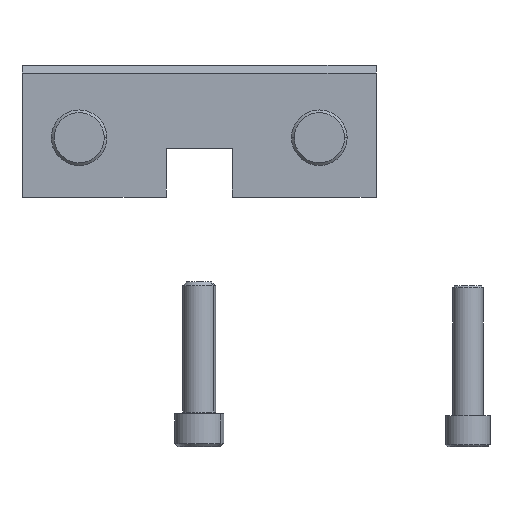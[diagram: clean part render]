
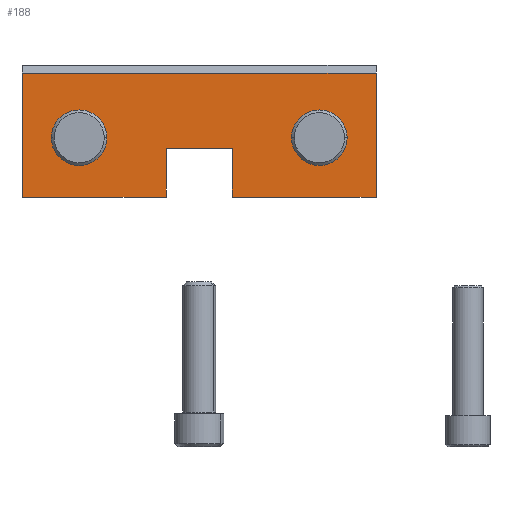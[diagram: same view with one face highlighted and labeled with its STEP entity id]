
A CAD part, front view. The second image highlights one B-rep face of the part: STEP entity #188.
In plain terms, the highlighted planar face has unit normal (0, -1, 0).
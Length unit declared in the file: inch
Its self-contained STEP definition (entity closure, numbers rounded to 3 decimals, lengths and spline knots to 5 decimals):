
#33 = ORIENTED_EDGE ( 'NONE', *, *, #2115, .T. ) ;
#54 = VERTEX_POINT ( 'NONE', #2180 ) ;
#61 = VECTOR ( 'NONE', #1964, 39.37008 ) ;
#81 = CARTESIAN_POINT ( 'NONE',  ( 1.34, 0., -0.5 ) ) ;
#82 = DIRECTION ( 'NONE',  ( 0., 0., 1. ) ) ;
#88 = DIRECTION ( 'NONE',  ( 0., 0., -1. ) ) ;
#110 = AXIS2_PLACEMENT_3D ( 'NONE', #1415, #2250, #1198 ) ;
#150 = AXIS2_PLACEMENT_3D ( 'NONE', #2074, #175, #1017 ) ;
#175 = DIRECTION ( 'NONE',  ( 0., 1., 0. ) ) ;
#188 = ADVANCED_FACE ( 'NONE', ( #1811, #1598, #526 ), #1352, .T. ) ;
#190 = ORIENTED_EDGE ( 'NONE', *, *, #922, .T. ) ;
#228 = VECTOR ( 'NONE', #1560, 39.37008 ) ;
#253 = CARTESIAN_POINT ( 'NONE',  ( -0.25, 0., -0.13 ) ) ;
#255 = CARTESIAN_POINT ( 'NONE',  ( 1.34, 0., 0.5 ) ) ;
#266 = LINE ( 'NONE', #1989, #2679 ) ;
#267 = EDGE_LOOP ( 'NONE', ( #190, #2014 ) ) ;
#306 = DIRECTION ( 'NONE',  ( 0., -1., 0. ) ) ;
#388 = CARTESIAN_POINT ( 'NONE',  ( 0.25, 0., -0.13 ) ) ;
#398 = CARTESIAN_POINT ( 'NONE',  ( -1.34, 0., -0.5 ) ) ;
#432 = EDGE_CURVE ( 'NONE', #2087, #54, #1242, .T. ) ;
#473 = CARTESIAN_POINT ( 'NONE',  ( -1.34, 0., -0.5 ) ) ;
#483 = ORIENTED_EDGE ( 'NONE', *, *, #2274, .F. ) ;
#490 = VERTEX_POINT ( 'NONE', #2132 ) ;
#526 = FACE_OUTER_BOUND ( 'NONE', #1681, .T. ) ;
#542 = LINE ( 'NONE', #253, #1695 ) ;
#554 = EDGE_CURVE ( 'NONE', #2379, #873, #1597, .T. ) ;
#585 = ORIENTED_EDGE ( 'NONE', *, *, #1091, .F. ) ;
#637 = DIRECTION ( 'NONE',  ( 0., 1., 0. ) ) ;
#649 = DIRECTION ( 'NONE',  ( 0., 0., 1. ) ) ;
#654 = CARTESIAN_POINT ( 'NONE',  ( 0.91, 0., -0.05 ) ) ;
#655 = LINE ( 'NONE', #2715, #1344 ) ;
#686 = DIRECTION ( 'NONE',  ( 0., 1., 0. ) ) ;
#696 = DIRECTION ( 'NONE',  ( 1., 0., 0. ) ) ;
#838 = CARTESIAN_POINT ( 'NONE',  ( -0.91, 0., -0.05 ) ) ;
#845 = DIRECTION ( 'NONE',  ( 0., 0., 1. ) ) ;
#873 = VERTEX_POINT ( 'NONE', #1501 ) ;
#876 = CARTESIAN_POINT ( 'NONE',  ( -0.91, 0., 0.16095 ) ) ;
#906 = ORIENTED_EDGE ( 'NONE', *, *, #432, .T. ) ;
#922 = EDGE_CURVE ( 'NONE', #2325, #1045, #1243, .T. ) ;
#950 = EDGE_CURVE ( 'NONE', #490, #2567, #1983, .T. ) ;
#985 = EDGE_CURVE ( 'NONE', #490, #2660, #1306, .T. ) ;
#1000 = DIRECTION ( 'NONE',  ( -1., 0., 0. ) ) ;
#1017 = DIRECTION ( 'NONE',  ( 0., 0., 1. ) ) ;
#1042 = LINE ( 'NONE', #398, #1977 ) ;
#1045 = VERTEX_POINT ( 'NONE', #1727 ) ;
#1069 = ORIENTED_EDGE ( 'NONE', *, *, #2652, .T. ) ;
#1070 = AXIS2_PLACEMENT_3D ( 'NONE', #654, #686, #82 ) ;
#1091 = EDGE_CURVE ( 'NONE', #2567, #1393, #2644, .T. ) ;
#1098 = CARTESIAN_POINT ( 'NONE',  ( -1.34, 0., 0.44 ) ) ;
#1198 = DIRECTION ( 'NONE',  ( 0., 0., 1. ) ) ;
#1240 = ORIENTED_EDGE ( 'NONE', *, *, #950, .F. ) ;
#1242 = LINE ( 'NONE', #1875, #2297 ) ;
#1243 = CIRCLE ( 'NONE', #1070, 0.21095 ) ;
#1287 = EDGE_CURVE ( 'NONE', #1830, #2660, #655, .T. ) ;
#1306 = LINE ( 'NONE', #1098, #228 ) ;
#1334 = ORIENTED_EDGE ( 'NONE', *, *, #1406, .T. ) ;
#1344 = VECTOR ( 'NONE', #845, 39.37008 ) ;
#1352 = PLANE ( 'NONE',  #2361 ) ;
#1393 = VERTEX_POINT ( 'NONE', #2246 ) ;
#1406 = EDGE_CURVE ( 'NONE', #54, #1817, #542, .T. ) ;
#1415 = CARTESIAN_POINT ( 'NONE',  ( -0.91, 0., -0.05 ) ) ;
#1428 = CARTESIAN_POINT ( 'NONE',  ( -1.34, 0., -0.5 ) ) ;
#1431 = DIRECTION ( 'NONE',  ( -1., 0., 0. ) ) ;
#1501 = CARTESIAN_POINT ( 'NONE',  ( -0.91, 0., -0.26095 ) ) ;
#1560 = DIRECTION ( 'NONE',  ( -1., 0., 0. ) ) ;
#1597 = CIRCLE ( 'NONE', #1787, 0.21095 ) ;
#1598 = FACE_BOUND ( 'NONE', #267, .T. ) ;
#1610 = DIRECTION ( 'NONE',  ( 0., 0., -1. ) ) ;
#1681 = EDGE_LOOP ( 'NONE', ( #1240, #2577, #2154, #483, #906, #1334, #1069, #585 ) ) ;
#1695 = VECTOR ( 'NONE', #696, 39.37008 ) ;
#1727 = CARTESIAN_POINT ( 'NONE',  ( 0.91, 0., -0.26095 ) ) ;
#1734 = CARTESIAN_POINT ( 'NONE',  ( -1.34, 0., 0.44 ) ) ;
#1760 = ORIENTED_EDGE ( 'NONE', *, *, #554, .T. ) ;
#1787 = AXIS2_PLACEMENT_3D ( 'NONE', #838, #637, #649 ) ;
#1811 = FACE_BOUND ( 'NONE', #2381, .T. ) ;
#1817 = VERTEX_POINT ( 'NONE', #388 ) ;
#1823 = EDGE_CURVE ( 'NONE', #1045, #2325, #2092, .T. ) ;
#1830 = VERTEX_POINT ( 'NONE', #473 ) ;
#1875 = CARTESIAN_POINT ( 'NONE',  ( -0.25, 0., -0.5 ) ) ;
#1964 = DIRECTION ( 'NONE',  ( 0., 0., -1. ) ) ;
#1976 = CARTESIAN_POINT ( 'NONE',  ( 1.34, 0., -0.5 ) ) ;
#1977 = VECTOR ( 'NONE', #1431, 39.37008 ) ;
#1983 = LINE ( 'NONE', #255, #61 ) ;
#1989 = CARTESIAN_POINT ( 'NONE',  ( 0.25, 0., -0.5 ) ) ;
#2014 = ORIENTED_EDGE ( 'NONE', *, *, #1823, .T. ) ;
#2074 = CARTESIAN_POINT ( 'NONE',  ( 0.91, 0., -0.05 ) ) ;
#2082 = CARTESIAN_POINT ( 'NONE',  ( 0.91, 0., 0.16095 ) ) ;
#2087 = VERTEX_POINT ( 'NONE', #2468 ) ;
#2092 = CIRCLE ( 'NONE', #150, 0.21095 ) ;
#2115 = EDGE_CURVE ( 'NONE', #873, #2379, #2711, .T. ) ;
#2132 = CARTESIAN_POINT ( 'NONE',  ( 1.34, 0., 0.44 ) ) ;
#2154 = ORIENTED_EDGE ( 'NONE', *, *, #1287, .F. ) ;
#2180 = CARTESIAN_POINT ( 'NONE',  ( -0.25, 0., -0.13 ) ) ;
#2246 = CARTESIAN_POINT ( 'NONE',  ( 0.25, 0., -0.5 ) ) ;
#2247 = DIRECTION ( 'NONE',  ( 0., 0., 1. ) ) ;
#2250 = DIRECTION ( 'NONE',  ( 0., 1., 0. ) ) ;
#2274 = EDGE_CURVE ( 'NONE', #2087, #1830, #1042, .T. ) ;
#2297 = VECTOR ( 'NONE', #2247, 39.37008 ) ;
#2325 = VERTEX_POINT ( 'NONE', #2082 ) ;
#2361 = AXIS2_PLACEMENT_3D ( 'NONE', #81, #306, #1610 ) ;
#2379 = VERTEX_POINT ( 'NONE', #876 ) ;
#2381 = EDGE_LOOP ( 'NONE', ( #1760, #33 ) ) ;
#2468 = CARTESIAN_POINT ( 'NONE',  ( -0.25, 0., -0.5 ) ) ;
#2567 = VERTEX_POINT ( 'NONE', #1976 ) ;
#2577 = ORIENTED_EDGE ( 'NONE', *, *, #985, .T. ) ;
#2644 = LINE ( 'NONE', #1428, #2705 ) ;
#2652 = EDGE_CURVE ( 'NONE', #1817, #1393, #266, .T. ) ;
#2660 = VERTEX_POINT ( 'NONE', #1734 ) ;
#2679 = VECTOR ( 'NONE', #88, 39.37008 ) ;
#2705 = VECTOR ( 'NONE', #1000, 39.37008 ) ;
#2711 = CIRCLE ( 'NONE', #110, 0.21095 ) ;
#2715 = CARTESIAN_POINT ( 'NONE',  ( -1.34, 0., 0.5 ) ) ;
